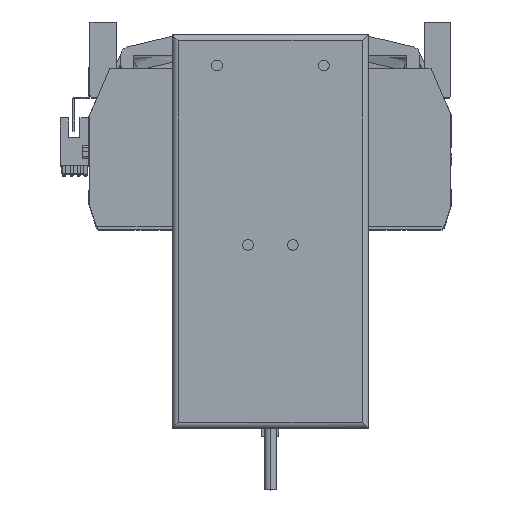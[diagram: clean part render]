
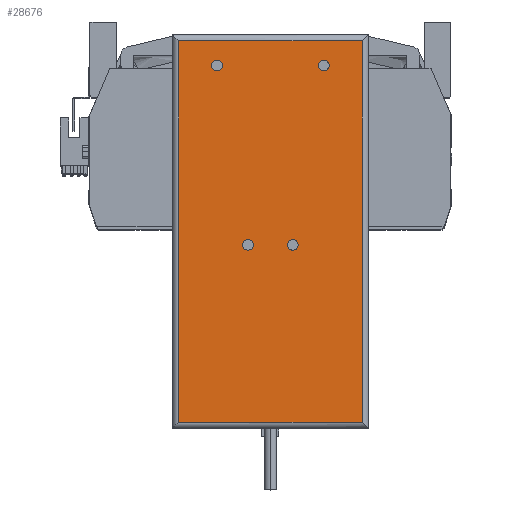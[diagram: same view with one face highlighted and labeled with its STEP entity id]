
A CAD part, top view. The second image highlights one B-rep face of the part: STEP entity #28676.
In plain terms, the highlighted planar face has unit normal (0, 0, 1) as drawn and (0, 0, -1) by its records, which use the part's own axes.
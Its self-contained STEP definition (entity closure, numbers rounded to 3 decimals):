
#177 = ORIENTED_EDGE ( 'NONE', *, *, #42832, .F. ) ;
#469 = VERTEX_POINT ( 'NONE', #24434 ) ;
#1116 = DIRECTION ( 'NONE',  ( 0., 0., -1. ) ) ;
#1285 = CIRCLE ( 'NONE', #28608, 2.5 ) ;
#1364 = EDGE_CURVE ( 'NONE', #27260, #5756, #33966, .T. ) ;
#1862 = EDGE_CURVE ( 'NONE', #41386, #37820, #22574, .T. ) ;
#2764 = DIRECTION ( 'NONE',  ( -1., 0., 0. ) ) ;
#3054 = DIRECTION ( 'NONE',  ( 0., 0., -1. ) ) ;
#3171 = DIRECTION ( 'NONE',  ( 0., 0., -1. ) ) ;
#4754 = DIRECTION ( 'NONE',  ( -1., 0., 0. ) ) ;
#4984 = CARTESIAN_POINT ( 'NONE',  ( 43., 89.25, 0. ) ) ;
#5523 = FACE_OUTER_BOUND ( 'NONE', #43009, .T. ) ;
#5756 = VERTEX_POINT ( 'NONE', #39519 ) ;
#6116 = VERTEX_POINT ( 'NONE', #14803 ) ;
#6240 = CARTESIAN_POINT ( 'NONE',  ( 25., 77.75, 0. ) ) ;
#7316 = CIRCLE ( 'NONE', #45556, 2.5 ) ;
#7745 = FACE_BOUND ( 'NONE', #33353, .T. ) ;
#8382 = DIRECTION ( 'NONE',  ( 0., 0., -1. ) ) ;
#8595 = VERTEX_POINT ( 'NONE', #23706 ) ;
#8630 = VERTEX_POINT ( 'NONE', #32335 ) ;
#8716 = ORIENTED_EDGE ( 'NONE', *, *, #10615, .T. ) ;
#8890 = EDGE_LOOP ( 'NONE', ( #177, #24698 ) ) ;
#9342 = CARTESIAN_POINT ( 'NONE',  ( -8., -6.25, 0. ) ) ;
#10201 = DIRECTION ( 'NONE',  ( -1., 0., 0. ) ) ;
#10615 = EDGE_CURVE ( 'NONE', #6116, #469, #40581, .T. ) ;
#11146 = CARTESIAN_POINT ( 'NONE',  ( 10.5, -6.25, 0. ) ) ;
#11693 = CARTESIAN_POINT ( 'NONE',  ( 10.5, -6.25, 0. ) ) ;
#11853 = CARTESIAN_POINT ( 'NONE',  ( -43., 89.25, 0. ) ) ;
#11860 = AXIS2_PLACEMENT_3D ( 'NONE', #13832, #28951, #17818 ) ;
#12923 = CARTESIAN_POINT ( 'NONE',  ( -13., -6.25, 0. ) ) ;
#13607 = CARTESIAN_POINT ( 'NONE',  ( -46., -89.25, 0. ) ) ;
#13731 = EDGE_CURVE ( 'NONE', #37820, #41386, #40403, .T. ) ;
#13832 = CARTESIAN_POINT ( 'NONE',  ( -46., -92.25, 0. ) ) ;
#14240 = DIRECTION ( 'NONE',  ( 0., 0., -1. ) ) ;
#14418 = VECTOR ( 'NONE', #24389, 1000. ) ;
#14803 = CARTESIAN_POINT ( 'NONE',  ( 43., -89.25, 0. ) ) ;
#15273 = AXIS2_PLACEMENT_3D ( 'NONE', #11146, #36578, #26094 ) ;
#15562 = AXIS2_PLACEMENT_3D ( 'NONE', #17402, #46595, #24888 ) ;
#16171 = ORIENTED_EDGE ( 'NONE', *, *, #41235, .F. ) ;
#16506 = DIRECTION ( 'NONE',  ( 0., 0., -1. ) ) ;
#16681 = DIRECTION ( 'NONE',  ( 0., -1., 0. ) ) ;
#17186 = EDGE_CURVE ( 'NONE', #469, #35826, #44230, .T. ) ;
#17402 = CARTESIAN_POINT ( 'NONE',  ( -25., 77.75, 0. ) ) ;
#17456 = AXIS2_PLACEMENT_3D ( 'NONE', #6240, #14240, #31293 ) ;
#17538 = EDGE_CURVE ( 'NONE', #28611, #22229, #7316, .T. ) ;
#17818 = DIRECTION ( 'NONE',  ( 1., 0., 0. ) ) ;
#17842 = VECTOR ( 'NONE', #21117, 1000. ) ;
#19634 = CIRCLE ( 'NONE', #30314, 2.5 ) ;
#20400 = EDGE_CURVE ( 'NONE', #35826, #34282, #21850, .T. ) ;
#21117 = DIRECTION ( 'NONE',  ( -1., 0., 0. ) ) ;
#21341 = PLANE ( 'NONE',  #11860 ) ;
#21557 = ORIENTED_EDGE ( 'NONE', *, *, #31221, .T. ) ;
#21850 = LINE ( 'NONE', #35356, #14418 ) ;
#21955 = ORIENTED_EDGE ( 'NONE', *, *, #13731, .F. ) ;
#22229 = VERTEX_POINT ( 'NONE', #9342 ) ;
#22439 = LINE ( 'NONE', #32115, #32634 ) ;
#22574 = CIRCLE ( 'NONE', #15273, 2.5 ) ;
#22600 = ORIENTED_EDGE ( 'NONE', *, *, #20400, .T. ) ;
#22631 = EDGE_CURVE ( 'NONE', #8595, #8630, #40970, .T. ) ;
#23110 = CARTESIAN_POINT ( 'NONE',  ( 13., -6.25, 0. ) ) ;
#23706 = CARTESIAN_POINT ( 'NONE',  ( 22.5, 77.75, 0. ) ) ;
#24337 = ORIENTED_EDGE ( 'NONE', *, *, #17186, .T. ) ;
#24389 = DIRECTION ( 'NONE',  ( 1., 0., 0. ) ) ;
#24434 = CARTESIAN_POINT ( 'NONE',  ( -43., -89.25, 0. ) ) ;
#24447 = AXIS2_PLACEMENT_3D ( 'NONE', #34980, #16506, #45880 ) ;
#24590 = DIRECTION ( 'NONE',  ( 0., 1., 0. ) ) ;
#24681 = CARTESIAN_POINT ( 'NONE',  ( -10.5, -6.25, 0. ) ) ;
#24698 = ORIENTED_EDGE ( 'NONE', *, *, #1364, .F. ) ;
#24776 = FACE_BOUND ( 'NONE', #8890, .T. ) ;
#24888 = DIRECTION ( 'NONE',  ( -1., 0., 0. ) ) ;
#26094 = DIRECTION ( 'NONE',  ( -1., 0., 0. ) ) ;
#27260 = VERTEX_POINT ( 'NONE', #43416 ) ;
#27704 = ORIENTED_EDGE ( 'NONE', *, *, #17538, .F. ) ;
#28608 = AXIS2_PLACEMENT_3D ( 'NONE', #40384, #1116, #4754 ) ;
#28611 = VERTEX_POINT ( 'NONE', #12923 ) ;
#28676 = ADVANCED_FACE ( 'NONE', ( #5523, #7745, #34466, #24776, #30476 ), #21341, .F. ) ;
#28747 = AXIS2_PLACEMENT_3D ( 'NONE', #11693, #8382, #37104 ) ;
#28904 = VECTOR ( 'NONE', #24590, 1000. ) ;
#28951 = DIRECTION ( 'NONE',  ( 0., 0., 1. ) ) ;
#29415 = ORIENTED_EDGE ( 'NONE', *, *, #41756, .F. ) ;
#30314 = AXIS2_PLACEMENT_3D ( 'NONE', #39460, #3054, #2764 ) ;
#30476 = FACE_BOUND ( 'NONE', #41732, .T. ) ;
#31221 = EDGE_CURVE ( 'NONE', #34282, #6116, #22439, .T. ) ;
#31293 = DIRECTION ( 'NONE',  ( -1., 0., 0. ) ) ;
#32115 = CARTESIAN_POINT ( 'NONE',  ( 43., -92.25, 0. ) ) ;
#32335 = CARTESIAN_POINT ( 'NONE',  ( 27.5, 77.75, 0. ) ) ;
#32634 = VECTOR ( 'NONE', #16681, 1000. ) ;
#33353 = EDGE_LOOP ( 'NONE', ( #27704, #16171 ) ) ;
#33637 = ORIENTED_EDGE ( 'NONE', *, *, #22631, .F. ) ;
#33966 = CIRCLE ( 'NONE', #15562, 2.5 ) ;
#34282 = VERTEX_POINT ( 'NONE', #4984 ) ;
#34466 = FACE_BOUND ( 'NONE', #34473, .T. ) ;
#34473 = EDGE_LOOP ( 'NONE', ( #46350, #21955 ) ) ;
#34980 = CARTESIAN_POINT ( 'NONE',  ( 25., 77.75, 0. ) ) ;
#35054 = CIRCLE ( 'NONE', #17456, 2.5 ) ;
#35356 = CARTESIAN_POINT ( 'NONE',  ( -46., 89.25, 0. ) ) ;
#35826 = VERTEX_POINT ( 'NONE', #11853 ) ;
#36578 = DIRECTION ( 'NONE',  ( 0., 0., -1. ) ) ;
#37104 = DIRECTION ( 'NONE',  ( -1., 0., 0. ) ) ;
#37550 = CARTESIAN_POINT ( 'NONE',  ( 8., -6.25, 0. ) ) ;
#37820 = VERTEX_POINT ( 'NONE', #23110 ) ;
#39460 = CARTESIAN_POINT ( 'NONE',  ( -25., 77.75, 0. ) ) ;
#39519 = CARTESIAN_POINT ( 'NONE',  ( -27.5, 77.75, 0. ) ) ;
#40384 = CARTESIAN_POINT ( 'NONE',  ( -10.5, -6.25, 0. ) ) ;
#40403 = CIRCLE ( 'NONE', #28747, 2.5 ) ;
#40581 = LINE ( 'NONE', #13607, #17842 ) ;
#40970 = CIRCLE ( 'NONE', #24447, 2.5 ) ;
#41235 = EDGE_CURVE ( 'NONE', #22229, #28611, #1285, .T. ) ;
#41386 = VERTEX_POINT ( 'NONE', #37550 ) ;
#41732 = EDGE_LOOP ( 'NONE', ( #33637, #29415 ) ) ;
#41756 = EDGE_CURVE ( 'NONE', #8630, #8595, #35054, .T. ) ;
#42514 = CARTESIAN_POINT ( 'NONE',  ( -43., -92.25, 0. ) ) ;
#42832 = EDGE_CURVE ( 'NONE', #5756, #27260, #19634, .T. ) ;
#43009 = EDGE_LOOP ( 'NONE', ( #21557, #8716, #24337, #22600 ) ) ;
#43416 = CARTESIAN_POINT ( 'NONE',  ( -22.5, 77.75, 0. ) ) ;
#44230 = LINE ( 'NONE', #42514, #28904 ) ;
#45556 = AXIS2_PLACEMENT_3D ( 'NONE', #24681, #3171, #10201 ) ;
#45880 = DIRECTION ( 'NONE',  ( -1., 0., 0. ) ) ;
#46350 = ORIENTED_EDGE ( 'NONE', *, *, #1862, .F. ) ;
#46595 = DIRECTION ( 'NONE',  ( 0., 0., -1. ) ) ;
